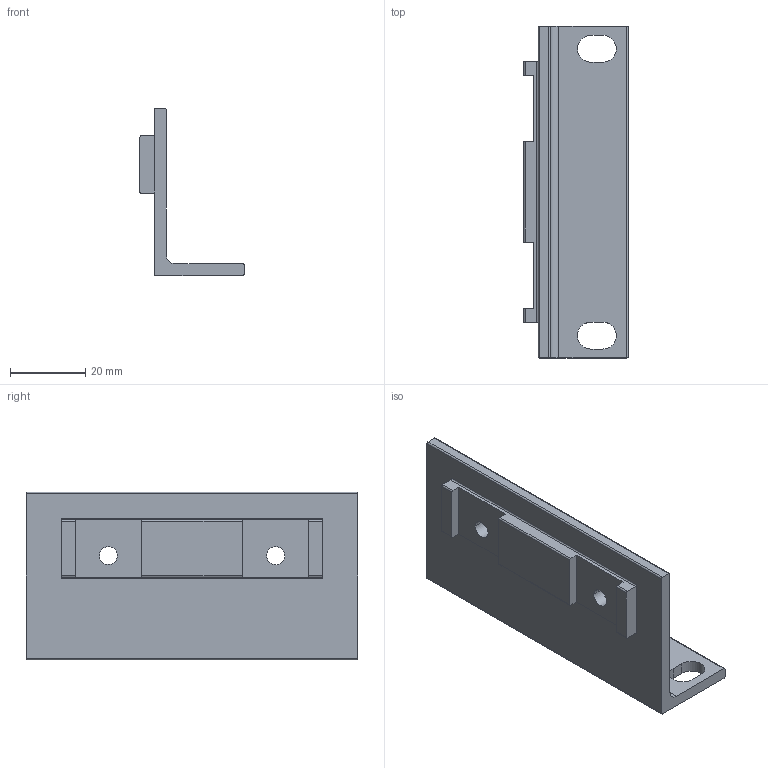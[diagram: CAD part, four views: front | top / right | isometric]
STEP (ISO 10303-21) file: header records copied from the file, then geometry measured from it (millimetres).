
FILE_DESCRIPTION((''),'2;1');
FILE_NAME('4288-1-302','2015-03-30T',('jpeters'),('Keithley Instruments, Inc'),'PRO/ENGINEER BY PARAMETRIC TECHNOLOGY CORPORATION, 2012480','PRO/ENGINEER BY PARAMETRIC TECHNOLOGY CORPORATION, 2012480','');
FILE_SCHEMA(('CONFIG_CONTROL_DESIGN'));
Length unit declared in the file: inch
Products named in the file (1): 4288-1-302
Bounding box: 27.66 x 88.11 x 44.45 mm (x, y, z)
Volume: 20421.6 mm3; surface area: 12874.3 mm2
Topology: 1 solids, 1 shells, 47 faces, 132 edges, 88 vertices
Faces by surface type: plane 25, cylinder 22
Entity records: 1586 total; most frequent: DIRECTION 270, CARTESIAN_POINT 267, ORIENTED_EDGE 264, EDGE_CURVE 132, AXIS2_PLACEMENT_3D 91, VECTOR 88, LINE 88, VERTEX_POINT 88
